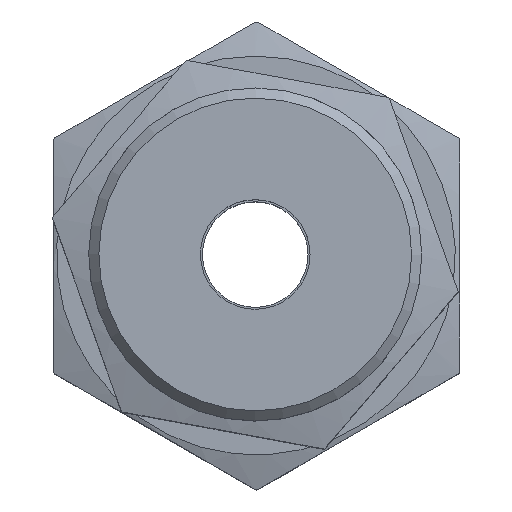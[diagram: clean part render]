
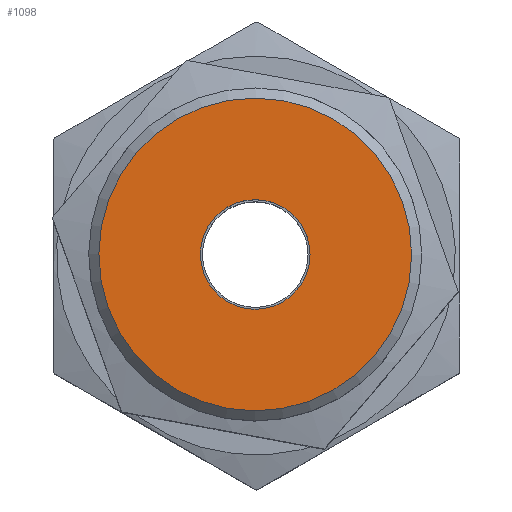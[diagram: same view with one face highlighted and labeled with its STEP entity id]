
A CAD part, top view. The second image highlights one B-rep face of the part: STEP entity #1098.
In plain terms, the highlighted planar face has unit normal (0, 0, 1) as drawn and (0, 1, 0) by its records, which use the part's own axes.
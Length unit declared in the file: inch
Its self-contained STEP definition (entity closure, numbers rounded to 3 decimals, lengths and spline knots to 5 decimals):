
#163=PLANE('',#1228);
#243=FACE_BOUND('',#425,.T.);
#314=FACE_OUTER_BOUND('',#424,.T.);
#424=EDGE_LOOP('',(#967));
#425=EDGE_LOOP('',(#968));
#489=CIRCLE('',#1225,0.1925);
#491=CIRCLE('',#1229,0.0675);
#586=VERTEX_POINT('',#4885);
#588=VERTEX_POINT('',#4891);
#718=EDGE_CURVE('',#586,#586,#489,.T.);
#720=EDGE_CURVE('',#588,#588,#491,.T.);
#967=ORIENTED_EDGE('',*,*,#718,.F.);
#968=ORIENTED_EDGE('',*,*,#720,.T.);
#1098=ADVANCED_FACE('',(#314,#243),#163,.T.);
#1225=AXIS2_PLACEMENT_3D('',#4886,#1486,#1487);
#1228=AXIS2_PLACEMENT_3D('',#4890,#1492,#1493);
#1229=AXIS2_PLACEMENT_3D('',#4892,#1494,#1495);
#1486=DIRECTION('center_axis',(0.,-1.,0.));
#1487=DIRECTION('ref_axis',(-1.,0.,0.));
#1492=DIRECTION('center_axis',(0.,1.,0.));
#1493=DIRECTION('ref_axis',(0.,0.,1.));
#1494=DIRECTION('center_axis',(0.,-1.,0.));
#1495=DIRECTION('ref_axis',(-1.,0.,0.));
#4885=CARTESIAN_POINT('',(0.1925,0.47913,0.));
#4886=CARTESIAN_POINT('Origin',(0.,0.47913,0.));
#4890=CARTESIAN_POINT('Origin',(0.,0.47913,0.));
#4891=CARTESIAN_POINT('',(0.0675,0.47913,0.));
#4892=CARTESIAN_POINT('Origin',(0.,0.47913,0.));
